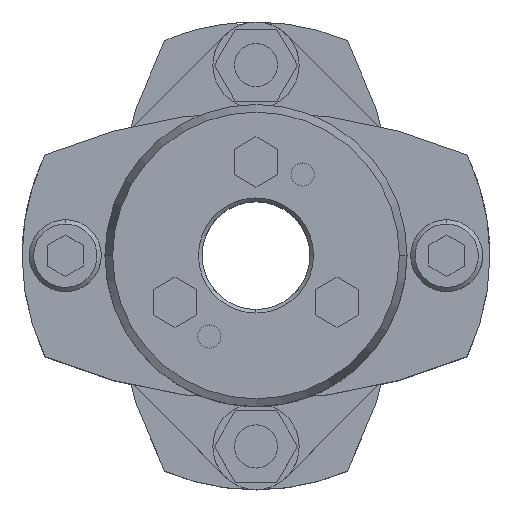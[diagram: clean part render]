
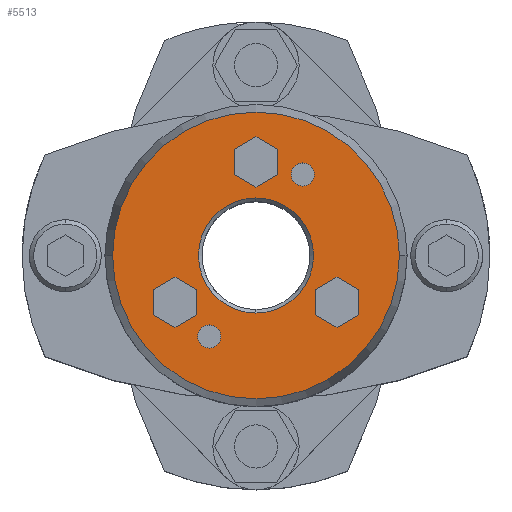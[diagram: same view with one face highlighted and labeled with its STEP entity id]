
A CAD part, top view. The second image highlights one B-rep face of the part: STEP entity #5513.
In plain terms, the highlighted planar face has unit normal (0, 0, 1).
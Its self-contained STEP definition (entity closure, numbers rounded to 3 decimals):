
#1783=CARTESIAN_POINT('',(-19.928,0.,40.0));
#1784=VERTEX_POINT('',#1783);
#1791=CARTESIAN_POINT('',(19.928,0.,40.0));
#1792=VERTEX_POINT('',#1791);
#1793=CARTESIAN_POINT('',(0.,0.,40.0));
#1794=DIRECTION('',(0.0,0.0,-1.0));
#1795=DIRECTION('',(-1.0,0.0,0.0));
#1796=AXIS2_PLACEMENT_3D('',#1793,#1794,#1795);
#1797=CIRCLE('',#1796,19.928);
#1798=EDGE_CURVE('',#1784,#1792,#1797,.T.);
#1893=CARTESIAN_POINT('',(0.,8.,40.0));
#1894=VERTEX_POINT('',#1893);
#1910=CARTESIAN_POINT('',(0.,-8.,40.0));
#1911=VERTEX_POINT('',#1910);
#1918=CARTESIAN_POINT('',(0.,0.,40.0));
#1919=DIRECTION('',(0.0,0.0,1.0));
#1920=DIRECTION('',(0.0,1.0,0.0));
#1921=AXIS2_PLACEMENT_3D('',#1918,#1919,#1920);
#1922=CIRCLE('',#1921,8.0);
#1923=EDGE_CURVE('',#1911,#1894,#1922,.T.);
#2041=CARTESIAN_POINT('',(6.5,12.858,40.0));
#2042=VERTEX_POINT('',#2041);
#2058=CARTESIAN_POINT('',(6.5,9.658,40.0));
#2059=VERTEX_POINT('',#2058);
#2066=CARTESIAN_POINT('',(6.5,11.258,40.0));
#2067=DIRECTION('',(0.0,0.0,-1.0));
#2068=DIRECTION('',(0.0,1.0,0.0));
#2069=AXIS2_PLACEMENT_3D('',#2066,#2067,#2068);
#2070=CIRCLE('',#2069,1.6);
#2071=EDGE_CURVE('',#2042,#2059,#2070,.T.);
#2083=CARTESIAN_POINT('',(-6.5,-9.658,40.0));
#2084=VERTEX_POINT('',#2083);
#2100=CARTESIAN_POINT('',(-6.5,-12.858,40.0));
#2101=VERTEX_POINT('',#2100);
#2108=CARTESIAN_POINT('',(-6.5,-11.258,40.0));
#2109=DIRECTION('',(0.0,0.0,-1.0));
#2110=DIRECTION('',(0.0,1.0,0.0));
#2111=AXIS2_PLACEMENT_3D('',#2108,#2109,#2110);
#2112=CIRCLE('',#2111,1.6);
#2113=EDGE_CURVE('',#2084,#2101,#2112,.T.);
#4716=CARTESIAN_POINT('',(-6.5,-11.258,40.0));
#4717=DIRECTION('',(0.0,0.0,-1.0));
#4718=DIRECTION('',(0.0,1.0,0.0));
#4719=AXIS2_PLACEMENT_3D('',#4716,#4717,#4718);
#4720=CIRCLE('',#4719,1.6);
#4721=EDGE_CURVE('',#2101,#2084,#4720,.T.);
#4750=CARTESIAN_POINT('',(6.5,11.258,40.0));
#4751=DIRECTION('',(0.0,0.0,-1.0));
#4752=DIRECTION('',(0.0,1.0,0.0));
#4753=AXIS2_PLACEMENT_3D('',#4750,#4751,#4752);
#4754=CIRCLE('',#4753,1.6);
#4755=EDGE_CURVE('',#2059,#2042,#4754,.T.);
#4793=CARTESIAN_POINT('',(-11.258,-3.,40.0));
#4794=VERTEX_POINT('',#4793);
#4801=CARTESIAN_POINT('',(-14.289,-4.75,40.0));
#4802=VERTEX_POINT('',#4801);
#4803=CARTESIAN_POINT('',(-14.289,-4.75,40.0));
#4804=DIRECTION('',(0.866,0.5,0.0));
#4805=VECTOR('',#4804,3.5);
#4806=LINE('',#4803,#4805);
#4807=EDGE_CURVE('',#4802,#4794,#4806,.T.);
#4831=CARTESIAN_POINT('',(-8.227,-4.75,40.0));
#4832=VERTEX_POINT('',#4831);
#4839=CARTESIAN_POINT('',(-11.258,-3.,40.0));
#4840=DIRECTION('',(0.866,-0.5,0.0));
#4841=VECTOR('',#4840,3.5);
#4842=LINE('',#4839,#4841);
#4843=EDGE_CURVE('',#4794,#4832,#4842,.T.);
#4862=CARTESIAN_POINT('',(-8.227,-8.25,40.0));
#4863=VERTEX_POINT('',#4862);
#4870=CARTESIAN_POINT('',(-8.227,-4.75,40.0));
#4871=DIRECTION('',(0.0,-1.0,0.0));
#4872=VECTOR('',#4871,3.5);
#4873=LINE('',#4870,#4872);
#4874=EDGE_CURVE('',#4832,#4863,#4873,.T.);
#4893=CARTESIAN_POINT('',(-11.258,-10.,40.0));
#4894=VERTEX_POINT('',#4893);
#4901=CARTESIAN_POINT('',(-8.227,-8.25,40.0));
#4902=DIRECTION('',(-0.866,-0.5,0.0));
#4903=VECTOR('',#4902,3.5);
#4904=LINE('',#4901,#4903);
#4905=EDGE_CURVE('',#4863,#4894,#4904,.T.);
#4924=CARTESIAN_POINT('',(-14.289,-8.25,40.0));
#4925=VERTEX_POINT('',#4924);
#4932=CARTESIAN_POINT('',(-11.258,-10.,40.0));
#4933=DIRECTION('',(-0.866,0.5,0.0));
#4934=VECTOR('',#4933,3.5);
#4935=LINE('',#4932,#4934);
#4936=EDGE_CURVE('',#4894,#4925,#4935,.T.);
#4954=CARTESIAN_POINT('',(-14.289,-8.25,40.0));
#4955=DIRECTION('',(0.0,1.0,0.0));
#4956=VECTOR('',#4955,3.5);
#4957=LINE('',#4954,#4956);
#4958=EDGE_CURVE('',#4925,#4802,#4957,.T.);
#4993=CARTESIAN_POINT('',(11.258,-3.,40.0));
#4994=VERTEX_POINT('',#4993);
#5001=CARTESIAN_POINT('',(8.227,-4.75,40.0));
#5002=VERTEX_POINT('',#5001);
#5003=CARTESIAN_POINT('',(8.227,-4.75,40.0));
#5004=DIRECTION('',(0.866,0.5,0.0));
#5005=VECTOR('',#5004,3.5);
#5006=LINE('',#5003,#5005);
#5007=EDGE_CURVE('',#5002,#4994,#5006,.T.);
#5031=CARTESIAN_POINT('',(14.289,-4.75,40.0));
#5032=VERTEX_POINT('',#5031);
#5039=CARTESIAN_POINT('',(11.258,-3.,40.0));
#5040=DIRECTION('',(0.866,-0.5,0.0));
#5041=VECTOR('',#5040,3.5);
#5042=LINE('',#5039,#5041);
#5043=EDGE_CURVE('',#4994,#5032,#5042,.T.);
#5062=CARTESIAN_POINT('',(14.289,-8.25,40.0));
#5063=VERTEX_POINT('',#5062);
#5070=CARTESIAN_POINT('',(14.289,-4.75,40.0));
#5071=DIRECTION('',(0.0,-1.0,0.0));
#5072=VECTOR('',#5071,3.5);
#5073=LINE('',#5070,#5072);
#5074=EDGE_CURVE('',#5032,#5063,#5073,.T.);
#5093=CARTESIAN_POINT('',(11.258,-10.,40.0));
#5094=VERTEX_POINT('',#5093);
#5101=CARTESIAN_POINT('',(14.289,-8.25,40.0));
#5102=DIRECTION('',(-0.866,-0.5,0.0));
#5103=VECTOR('',#5102,3.5);
#5104=LINE('',#5101,#5103);
#5105=EDGE_CURVE('',#5063,#5094,#5104,.T.);
#5124=CARTESIAN_POINT('',(8.227,-8.25,40.0));
#5125=VERTEX_POINT('',#5124);
#5132=CARTESIAN_POINT('',(11.258,-10.,40.0));
#5133=DIRECTION('',(-0.866,0.5,0.0));
#5134=VECTOR('',#5133,3.5);
#5135=LINE('',#5132,#5134);
#5136=EDGE_CURVE('',#5094,#5125,#5135,.T.);
#5154=CARTESIAN_POINT('',(8.227,-8.25,40.0));
#5155=DIRECTION('',(0.0,1.0,0.0));
#5156=VECTOR('',#5155,3.5);
#5157=LINE('',#5154,#5156);
#5158=EDGE_CURVE('',#5125,#5002,#5157,.T.);
#5193=CARTESIAN_POINT('',(0.,16.5,40.0));
#5194=VERTEX_POINT('',#5193);
#5201=CARTESIAN_POINT('',(-3.031,14.75,40.0));
#5202=VERTEX_POINT('',#5201);
#5203=CARTESIAN_POINT('',(-3.031,14.75,40.0));
#5204=DIRECTION('',(0.866,0.5,0.0));
#5205=VECTOR('',#5204,3.5);
#5206=LINE('',#5203,#5205);
#5207=EDGE_CURVE('',#5202,#5194,#5206,.T.);
#5231=CARTESIAN_POINT('',(3.031,14.75,40.0));
#5232=VERTEX_POINT('',#5231);
#5239=CARTESIAN_POINT('',(0.,16.5,40.0));
#5240=DIRECTION('',(0.866,-0.5,0.0));
#5241=VECTOR('',#5240,3.5);
#5242=LINE('',#5239,#5241);
#5243=EDGE_CURVE('',#5194,#5232,#5242,.T.);
#5262=CARTESIAN_POINT('',(3.031,11.25,40.0));
#5263=VERTEX_POINT('',#5262);
#5270=CARTESIAN_POINT('',(3.031,14.75,40.0));
#5271=DIRECTION('',(0.0,-1.0,0.0));
#5272=VECTOR('',#5271,3.5);
#5273=LINE('',#5270,#5272);
#5274=EDGE_CURVE('',#5232,#5263,#5273,.T.);
#5293=CARTESIAN_POINT('',(0.,9.5,40.0));
#5294=VERTEX_POINT('',#5293);
#5301=CARTESIAN_POINT('',(3.031,11.25,40.0));
#5302=DIRECTION('',(-0.866,-0.5,0.0));
#5303=VECTOR('',#5302,3.5);
#5304=LINE('',#5301,#5303);
#5305=EDGE_CURVE('',#5263,#5294,#5304,.T.);
#5324=CARTESIAN_POINT('',(-3.031,11.25,40.0));
#5325=VERTEX_POINT('',#5324);
#5332=CARTESIAN_POINT('',(0.,9.5,40.0));
#5333=DIRECTION('',(-0.866,0.5,0.0));
#5334=VECTOR('',#5333,3.5);
#5335=LINE('',#5332,#5334);
#5336=EDGE_CURVE('',#5294,#5325,#5335,.T.);
#5354=CARTESIAN_POINT('',(-3.031,11.25,40.0));
#5355=DIRECTION('',(0.0,1.0,0.0));
#5356=VECTOR('',#5355,3.5);
#5357=LINE('',#5354,#5356);
#5358=EDGE_CURVE('',#5325,#5202,#5357,.T.);
#5450=CARTESIAN_POINT('',(0.,0.,40.0));
#5451=DIRECTION('',(0.0,0.0,1.0));
#5452=DIRECTION('',(0.0,1.0,0.0));
#5453=AXIS2_PLACEMENT_3D('',#5450,#5451,#5452);
#5454=CIRCLE('',#5453,8.0);
#5455=EDGE_CURVE('',#1894,#1911,#5454,.T.);
#5462=CARTESIAN_POINT('',(-9.964,0.,40.0));
#5463=DIRECTION('',(0.0,0.0,1.0));
#5464=DIRECTION('',(0.0,1.0,0.0));
#5465=AXIS2_PLACEMENT_3D('',#5462,#5463,#5464);
#5466=PLANE('',#5465);
#5467=ORIENTED_EDGE('',*,*,#1798,.F.);
#5468=CARTESIAN_POINT('',(0.,0.,40.0));
#5469=DIRECTION('',(0.0,0.0,-1.0));
#5470=DIRECTION('',(-1.0,0.0,0.0));
#5471=AXIS2_PLACEMENT_3D('',#5468,#5469,#5470);
#5472=CIRCLE('',#5471,19.928);
#5473=EDGE_CURVE('',#1792,#1784,#5472,.T.);
#5474=ORIENTED_EDGE('',*,*,#5473,.F.);
#5475=EDGE_LOOP('',(#5467,#5474));
#5476=FACE_OUTER_BOUND('',#5475,.T.);
#5477=ORIENTED_EDGE('',*,*,#2113,.T.);
#5478=ORIENTED_EDGE('',*,*,#4721,.T.);
#5479=EDGE_LOOP('',(#5477,#5478));
#5480=FACE_BOUND('',#5479,.T.);
#5481=ORIENTED_EDGE('',*,*,#2071,.T.);
#5482=ORIENTED_EDGE('',*,*,#4755,.T.);
#5483=EDGE_LOOP('',(#5481,#5482));
#5484=FACE_BOUND('',#5483,.T.);
#5485=ORIENTED_EDGE('',*,*,#4807,.T.);
#5486=ORIENTED_EDGE('',*,*,#4843,.T.);
#5487=ORIENTED_EDGE('',*,*,#4874,.T.);
#5488=ORIENTED_EDGE('',*,*,#4905,.T.);
#5489=ORIENTED_EDGE('',*,*,#4936,.T.);
#5490=ORIENTED_EDGE('',*,*,#4958,.T.);
#5491=EDGE_LOOP('',(#5485,#5486,#5487,#5488,#5489,#5490));
#5492=FACE_BOUND('',#5491,.T.);
#5493=ORIENTED_EDGE('',*,*,#5007,.T.);
#5494=ORIENTED_EDGE('',*,*,#5043,.T.);
#5495=ORIENTED_EDGE('',*,*,#5074,.T.);
#5496=ORIENTED_EDGE('',*,*,#5105,.T.);
#5497=ORIENTED_EDGE('',*,*,#5136,.T.);
#5498=ORIENTED_EDGE('',*,*,#5158,.T.);
#5499=EDGE_LOOP('',(#5493,#5494,#5495,#5496,#5497,#5498));
#5500=FACE_BOUND('',#5499,.T.);
#5501=ORIENTED_EDGE('',*,*,#5207,.T.);
#5502=ORIENTED_EDGE('',*,*,#5243,.T.);
#5503=ORIENTED_EDGE('',*,*,#5274,.T.);
#5504=ORIENTED_EDGE('',*,*,#5305,.T.);
#5505=ORIENTED_EDGE('',*,*,#5336,.T.);
#5506=ORIENTED_EDGE('',*,*,#5358,.T.);
#5507=EDGE_LOOP('',(#5501,#5502,#5503,#5504,#5505,#5506));
#5508=FACE_BOUND('',#5507,.T.);
#5509=ORIENTED_EDGE('',*,*,#1923,.F.);
#5510=ORIENTED_EDGE('',*,*,#5455,.F.);
#5511=EDGE_LOOP('',(#5509,#5510));
#5512=FACE_BOUND('',#5511,.T.);
#5513=ADVANCED_FACE('',(#5476,#5480,#5484,#5492,#5500,#5508,#5512),#5466,.T.);
